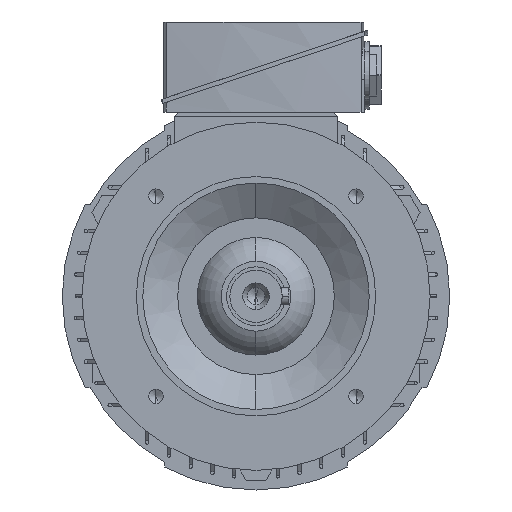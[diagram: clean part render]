
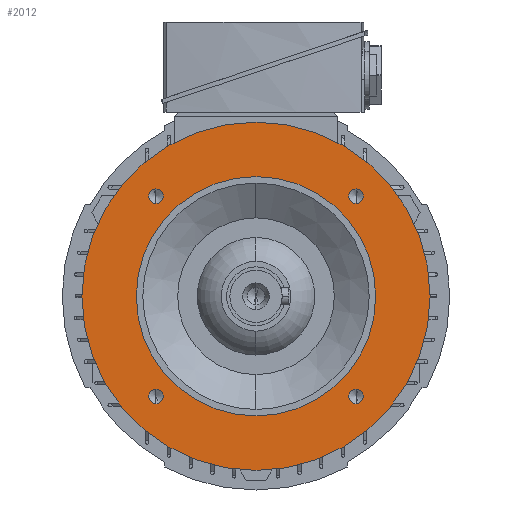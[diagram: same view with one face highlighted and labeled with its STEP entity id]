
A CAD part, left-side view. The second image highlights one B-rep face of the part: STEP entity #2012.
In plain terms, the highlighted planar face has unit normal (-1, 0, 0).
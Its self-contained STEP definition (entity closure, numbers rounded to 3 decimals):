
#2012=ADVANCED_FACE('',(#4055,#4056,#4057,#4058,#4059,#4060),#4061,.T.);
#4055=FACE_BOUND('',#6102,.T.);
#4056=FACE_BOUND('',#6103,.T.);
#4057=FACE_BOUND('',#6104,.T.);
#4058=FACE_BOUND('',#6105,.T.);
#4059=FACE_OUTER_BOUND('',#6106,.T.);
#4060=FACE_BOUND('',#6107,.T.);
#4061=PLANE('',#6108);
#6102=EDGE_LOOP('',(#12450,#12451));
#6103=EDGE_LOOP('',(#12452,#12453));
#6104=EDGE_LOOP('',(#12454,#12455));
#6105=EDGE_LOOP('',(#12456,#12457));
#6106=EDGE_LOOP('',(#12458,#12459));
#6107=EDGE_LOOP('',(#12460,#12461));
#6108=AXIS2_PLACEMENT_3D('',#12462,#12463,#12464);
#12450=ORIENTED_EDGE('',*,*,#14976,.T.);
#12451=ORIENTED_EDGE('',*,*,#12612,.T.);
#12452=ORIENTED_EDGE('',*,*,#14980,.T.);
#12453=ORIENTED_EDGE('',*,*,#12604,.T.);
#12454=ORIENTED_EDGE('',*,*,#14984,.T.);
#12455=ORIENTED_EDGE('',*,*,#12596,.T.);
#12456=ORIENTED_EDGE('',*,*,#14988,.T.);
#12457=ORIENTED_EDGE('',*,*,#12588,.T.);
#12458=ORIENTED_EDGE('',*,*,#12530,.F.);
#12459=ORIENTED_EDGE('',*,*,#15027,.F.);
#12460=ORIENTED_EDGE('',*,*,#12537,.T.);
#12461=ORIENTED_EDGE('',*,*,#15025,.T.);
#12462=CARTESIAN_POINT('',(-34.5,0.0,67.5));
#12463=DIRECTION('',(-1.0,-0.0,-0.0));
#12464=DIRECTION('',(0.0,0.0,-1.0));
#12530=EDGE_CURVE('',#15064,#15067,#15068,.T.);
#12537=EDGE_CURVE('',#15074,#15078,#15080,.T.);
#12588=EDGE_CURVE('',#15177,#15174,#15178,.T.);
#12596=EDGE_CURVE('',#15190,#15187,#15191,.T.);
#12604=EDGE_CURVE('',#15203,#15200,#15204,.T.);
#12612=EDGE_CURVE('',#15216,#15213,#15217,.T.);
#14976=EDGE_CURVE('',#15213,#15216,#18725,.T.);
#14980=EDGE_CURVE('',#15200,#15203,#18729,.T.);
#14984=EDGE_CURVE('',#15187,#15190,#18733,.T.);
#14988=EDGE_CURVE('',#15174,#15177,#18737,.T.);
#15025=EDGE_CURVE('',#15078,#15074,#18780,.T.);
#15027=EDGE_CURVE('',#15067,#15064,#18782,.T.);
#15064=VERTEX_POINT('',#18823);
#15067=VERTEX_POINT('',#18827);
#15068=CIRCLE('',#18828,80.0);
#15074=VERTEX_POINT('',#18835);
#15078=VERTEX_POINT('',#18840);
#15080=CIRCLE('',#18843,55.0);
#15174=VERTEX_POINT('',#19003);
#15177=VERTEX_POINT('',#19007);
#15178=CIRCLE('',#19008,3.325);
#15187=VERTEX_POINT('',#19020);
#15190=VERTEX_POINT('',#19024);
#15191=CIRCLE('',#19025,3.325);
#15200=VERTEX_POINT('',#19037);
#15203=VERTEX_POINT('',#19041);
#15204=CIRCLE('',#19042,3.325);
#15213=VERTEX_POINT('',#19054);
#15216=VERTEX_POINT('',#19058);
#15217=CIRCLE('',#19059,3.325);
#18725=CIRCLE('',#25176,3.325);
#18729=CIRCLE('',#25180,3.325);
#18733=CIRCLE('',#25184,3.325);
#18737=CIRCLE('',#25188,3.325);
#18780=CIRCLE('',#25287,55.0);
#18782=CIRCLE('',#25289,80.0);
#18823=CARTESIAN_POINT('',(-34.5,0.0,80.0));
#18827=CARTESIAN_POINT('',(-34.5,0.,-80.0));
#18828=AXIS2_PLACEMENT_3D('',#25327,#25328,#25329);
#18835=CARTESIAN_POINT('',(-34.5,0.0,55.0));
#18840=CARTESIAN_POINT('',(-34.5,0.,-55.0));
#18843=AXIS2_PLACEMENT_3D('',#25339,#25340,#25341);
#19003=CARTESIAN_POINT('',(-34.5,-45.962,42.637));
#19007=CARTESIAN_POINT('',(-34.5,-45.962,49.287));
#19008=AXIS2_PLACEMENT_3D('',#25424,#25425,#25426);
#19020=CARTESIAN_POINT('',(-34.5,-45.962,-49.287));
#19024=CARTESIAN_POINT('',(-34.5,-45.962,-42.637));
#19025=AXIS2_PLACEMENT_3D('',#25434,#25435,#25436);
#19037=CARTESIAN_POINT('',(-34.5,45.962,-49.287));
#19041=CARTESIAN_POINT('',(-34.5,45.962,-42.637));
#19042=AXIS2_PLACEMENT_3D('',#25444,#25445,#25446);
#19054=CARTESIAN_POINT('',(-34.5,45.962,42.637));
#19058=CARTESIAN_POINT('',(-34.5,45.962,49.287));
#19059=AXIS2_PLACEMENT_3D('',#25454,#25455,#25456);
#25176=AXIS2_PLACEMENT_3D('',#28067,#28068,#28069);
#25180=AXIS2_PLACEMENT_3D('',#28073,#28074,#28075);
#25184=AXIS2_PLACEMENT_3D('',#28079,#28080,#28081);
#25188=AXIS2_PLACEMENT_3D('',#28085,#28086,#28087);
#25287=AXIS2_PLACEMENT_3D('',#28114,#28115,#28116);
#25289=AXIS2_PLACEMENT_3D('',#28117,#28118,#28119);
#25327=CARTESIAN_POINT('',(-34.5,0.0,0.0));
#25328=DIRECTION('',(1.0,0.0,-0.0));
#25329=DIRECTION('',(0.0,0.0,1.0));
#25339=CARTESIAN_POINT('',(-34.5,0.0,0.0));
#25340=DIRECTION('',(1.0,0.0,-0.0));
#25341=DIRECTION('',(0.0,0.0,1.0));
#25424=CARTESIAN_POINT('',(-34.5,-45.962,45.962));
#25425=DIRECTION('',(1.0,0.0,0.0));
#25426=DIRECTION('',(0.0,0.0,-1.0));
#25434=CARTESIAN_POINT('',(-34.5,-45.962,-45.962));
#25435=DIRECTION('',(1.0,0.0,0.0));
#25436=DIRECTION('',(0.0,0.0,-1.0));
#25444=CARTESIAN_POINT('',(-34.5,45.962,-45.962));
#25445=DIRECTION('',(1.0,0.0,0.0));
#25446=DIRECTION('',(0.0,0.0,-1.0));
#25454=CARTESIAN_POINT('',(-34.5,45.962,45.962));
#25455=DIRECTION('',(1.0,0.0,0.0));
#25456=DIRECTION('',(0.0,0.0,-1.0));
#28067=CARTESIAN_POINT('',(-34.5,45.962,45.962));
#28068=DIRECTION('',(1.0,0.0,0.0));
#28069=DIRECTION('',(0.0,0.0,-1.0));
#28073=CARTESIAN_POINT('',(-34.5,45.962,-45.962));
#28074=DIRECTION('',(1.0,0.0,0.0));
#28075=DIRECTION('',(0.0,0.0,-1.0));
#28079=CARTESIAN_POINT('',(-34.5,-45.962,-45.962));
#28080=DIRECTION('',(1.0,0.0,0.0));
#28081=DIRECTION('',(0.0,0.0,-1.0));
#28085=CARTESIAN_POINT('',(-34.5,-45.962,45.962));
#28086=DIRECTION('',(1.0,0.0,0.0));
#28087=DIRECTION('',(0.0,0.0,-1.0));
#28114=CARTESIAN_POINT('',(-34.5,0.0,0.0));
#28115=DIRECTION('',(1.0,0.0,-0.0));
#28116=DIRECTION('',(0.0,0.0,1.0));
#28117=CARTESIAN_POINT('',(-34.5,0.0,0.0));
#28118=DIRECTION('',(1.0,0.0,-0.0));
#28119=DIRECTION('',(0.0,0.0,1.0));
